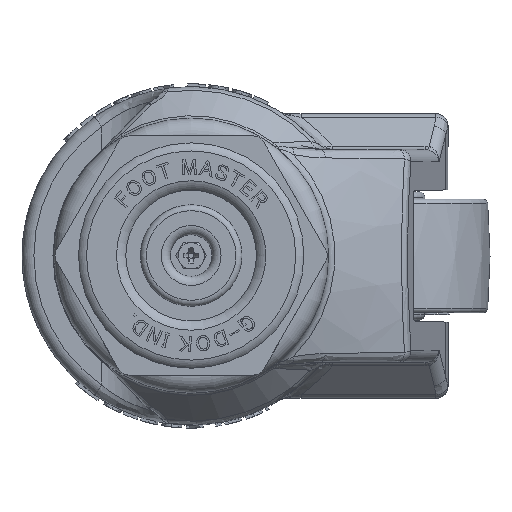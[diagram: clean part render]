
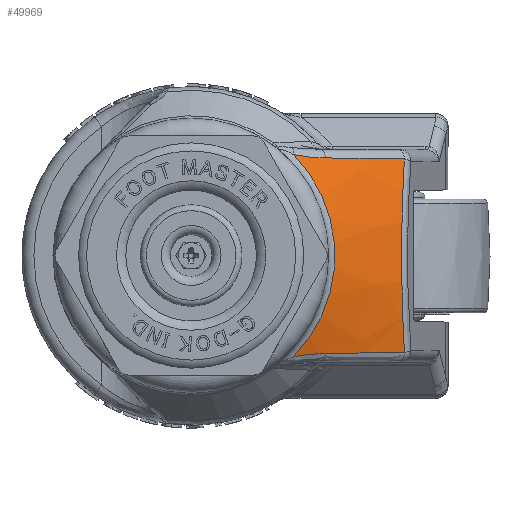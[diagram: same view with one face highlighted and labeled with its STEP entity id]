
A CAD part, top view. The second image highlights one B-rep face of the part: STEP entity #49969.
In plain terms, the highlighted conical face has half-angle 61.699 degrees and reference radius 36 mm.
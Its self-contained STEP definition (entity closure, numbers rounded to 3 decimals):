
#1555=CONICAL_SURFACE('',#53707,36.,1.077);
#4186=FACE_OUTER_BOUND('',#7183,.T.);
#7183=EDGE_LOOP('',(#39028,#39029,#39030,#39031,#39032,#39033));
#9686=CIRCLE('',#53708,24.052);
#17247=B_SPLINE_CURVE_WITH_KNOTS('',3,(#93560,#93561,#93562,#93563),
 .UNSPECIFIED.,.F.,.F.,(4,4),(0.96,2.409),
 .UNSPECIFIED.);
#17248=B_SPLINE_CURVE_WITH_KNOTS('',3,(#93585,#93586,#93587,#93588),
 .UNSPECIFIED.,.F.,.F.,(4,4),(0.,0.562),.UNSPECIFIED.);
#17251=B_SPLINE_CURVE_WITH_KNOTS('',3,(#93623,#93624,#93625,#93626,#93627,
#93628),.UNSPECIFIED.,.F.,.F.,(4,1,1,4),(0.925,2.292,
3.202,4.113),.UNSPECIFIED.);
#17253=B_SPLINE_CURVE_WITH_KNOTS('',3,(#93656,#93657,#93658,#93659),
 .UNSPECIFIED.,.F.,.F.,(4,4),(0.,1.45),.UNSPECIFIED.);
#17255=B_SPLINE_CURVE_WITH_KNOTS('',3,(#93690,#93691,#93692,#93693),
 .UNSPECIFIED.,.F.,.F.,(4,4),(0.,0.562),.UNSPECIFIED.);
#20900=VERTEX_POINT('',#92914);
#20976=VERTEX_POINT('',#93530);
#20978=VERTEX_POINT('',#93536);
#20979=VERTEX_POINT('',#93559);
#20981=VERTEX_POINT('',#93654);
#20983=VERTEX_POINT('',#93688);
#27238=EDGE_CURVE('',#20978,#20979,#17247,.T.);
#27240=EDGE_CURVE('',#20979,#20900,#17248,.T.);
#27243=EDGE_CURVE('',#20976,#20978,#17251,.T.);
#27246=EDGE_CURVE('',#20981,#20976,#17253,.T.);
#27251=EDGE_CURVE('',#20983,#20981,#17255,.T.);
#27254=EDGE_CURVE('',#20900,#20983,#9686,.T.);
#39028=ORIENTED_EDGE('',*,*,#27240,.F.);
#39029=ORIENTED_EDGE('',*,*,#27238,.F.);
#39030=ORIENTED_EDGE('',*,*,#27243,.F.);
#39031=ORIENTED_EDGE('',*,*,#27246,.F.);
#39032=ORIENTED_EDGE('',*,*,#27251,.F.);
#39033=ORIENTED_EDGE('',*,*,#27254,.F.);
#49969=ADVANCED_FACE('',(#4186),#1555,.T.);
#53707=AXIS2_PLACEMENT_3D('',#93746,#61731,#61732);
#53708=AXIS2_PLACEMENT_3D('',#93747,#61733,#61734);
#61731=DIRECTION('center_axis',(0.,0.,
-1.));
#61732=DIRECTION('ref_axis',(0.,1.,0.));
#61733=DIRECTION('center_axis',(0.,0.,
1.));
#61734=DIRECTION('ref_axis',(1.,0.,0.));
#92914=CARTESIAN_POINT('',(17.114,-16.9,-14.066));
#93530=CARTESIAN_POINT('',(35.672,16.192,-22.21));
#93536=CARTESIAN_POINT('',(35.672,-16.192,-22.21));
#93559=CARTESIAN_POINT('',(22.442,-16.359,-16.069));
#93560=CARTESIAN_POINT('Ctrl Pts',(35.672,-16.192,-22.21));
#93561=CARTESIAN_POINT('Ctrl Pts',(31.315,-16.232,-20.082));
#93562=CARTESIAN_POINT('Ctrl Pts',(26.928,-16.284,-17.997));
#93563=CARTESIAN_POINT('Ctrl Pts',(22.442,-16.359,-16.069));
#93585=CARTESIAN_POINT('Ctrl Pts',(22.442,-16.359,-16.069));
#93586=CARTESIAN_POINT('Ctrl Pts',(20.702,-16.387,-15.321));
#93587=CARTESIAN_POINT('Ctrl Pts',(18.918,-16.532,-14.618));
#93588=CARTESIAN_POINT('Ctrl Pts',(17.114,-16.9,-14.066));
#93623=CARTESIAN_POINT('Ctrl Pts',(35.672,16.192,-22.21));
#93624=CARTESIAN_POINT('Ctrl Pts',(35.431,11.685,-21.088));
#93625=CARTESIAN_POINT('Ctrl Pts',(35.166,3.914,-19.803));
#93626=CARTESIAN_POINT('Ctrl Pts',(35.261,-7.037,-20.267));
#93627=CARTESIAN_POINT('Ctrl Pts',(35.511,-13.187,-21.462));
#93628=CARTESIAN_POINT('Ctrl Pts',(35.672,-16.192,-22.21));
#93654=CARTESIAN_POINT('',(22.442,16.359,-16.069));
#93656=CARTESIAN_POINT('Ctrl Pts',(22.442,16.359,-16.069));
#93657=CARTESIAN_POINT('Ctrl Pts',(26.928,16.284,-17.997));
#93658=CARTESIAN_POINT('Ctrl Pts',(31.315,16.232,-20.082));
#93659=CARTESIAN_POINT('Ctrl Pts',(35.672,16.192,-22.21));
#93688=CARTESIAN_POINT('',(17.114,16.9,-14.066));
#93690=CARTESIAN_POINT('Ctrl Pts',(17.114,16.9,-14.066));
#93691=CARTESIAN_POINT('Ctrl Pts',(18.918,16.532,-14.618));
#93692=CARTESIAN_POINT('Ctrl Pts',(20.702,16.387,-15.321));
#93693=CARTESIAN_POINT('Ctrl Pts',(22.442,16.359,-16.069));
#93746=CARTESIAN_POINT('Origin',(0.,0.,
-20.5));
#93747=CARTESIAN_POINT('Origin',(0.,0.,
-14.066));
